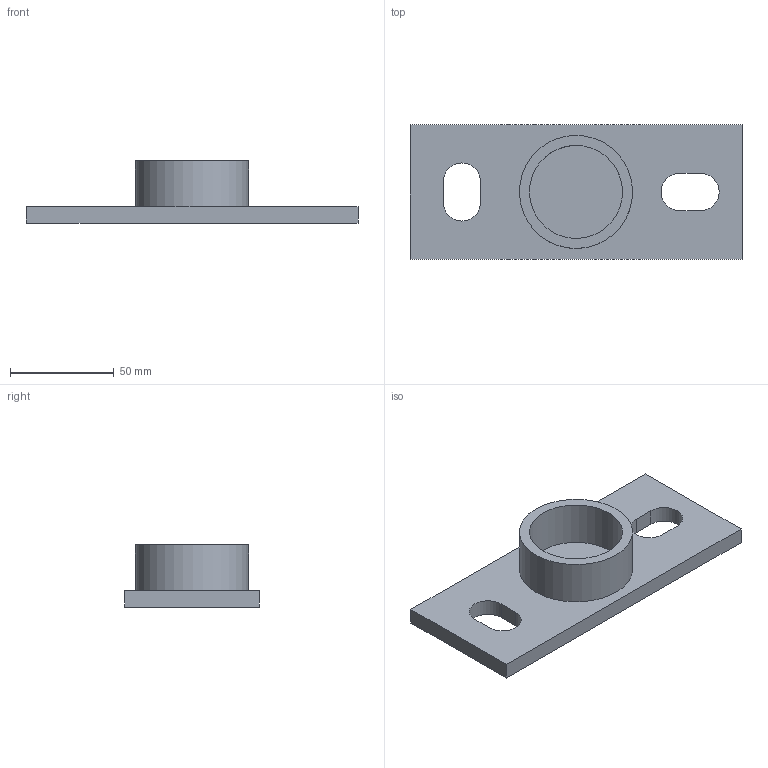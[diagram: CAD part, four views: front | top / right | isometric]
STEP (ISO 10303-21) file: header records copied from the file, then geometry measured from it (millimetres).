
FILE_DESCRIPTION(/* description */ (''),/* implementation_level */ '2;1');
FILE_NAME(/* name */ '362869.stp',/* time_stamp */ '2025-02-20T15:18:06+01:00',/* author */ ('JANAN'),/* organization */ (''),/* preprocessor_version */ 'ST-DEVELOPER v19.2',/* originating_system */ 'Autodesk Inventor 2023',/* authorisation */ '');
FILE_SCHEMA (('AUTOMOTIVE_DESIGN { 1 0 10303 214 3 1 1 }'));
Length unit declared in the file: millimetre
Products named in the file (1): tmp137B.tmp
Bounding box: 160 x 65 x 30 mm (x, y, z)
Volume: 92821.9 mm3; surface area: 30753.1 mm2
Topology: 1 solids, 1 shells, 18 faces, 42 edges, 28 vertices
Faces by surface type: plane 12, cylinder 6
Full cylindrical faces by diameter (mm): 44.845 x1, 54.5 x1
Entity records: 587 total; most frequent: DIRECTION 92, CARTESIAN_POINT 89, ORIENTED_EDGE 84, EDGE_CURVE 42, AXIS2_PLACEMENT_3D 31, LINE 30, VECTOR 30, VERTEX_POINT 28
